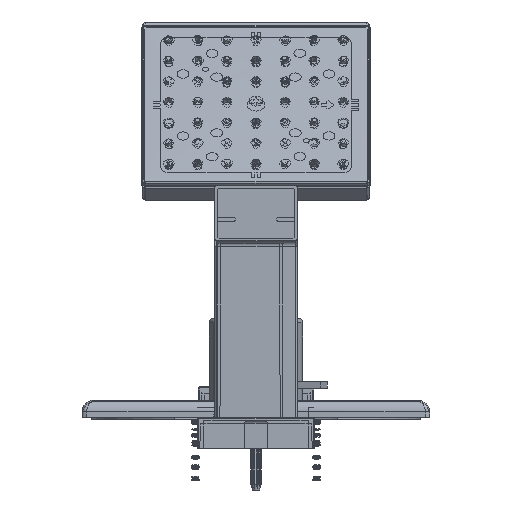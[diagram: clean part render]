
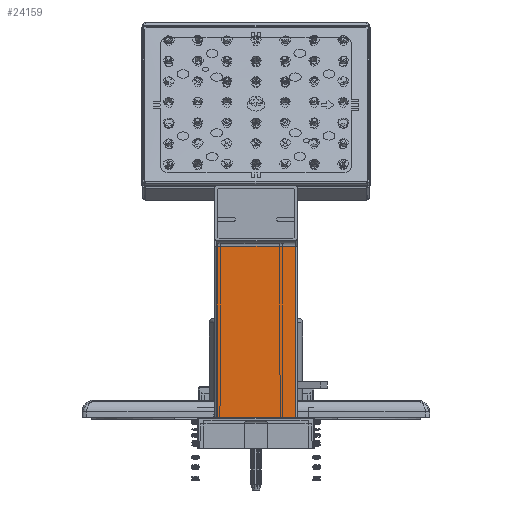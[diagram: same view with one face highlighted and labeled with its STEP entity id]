
A CAD part, front view. The second image highlights one B-rep face of the part: STEP entity #24159.
In plain terms, the highlighted planar face has unit normal (0, -1, 0).
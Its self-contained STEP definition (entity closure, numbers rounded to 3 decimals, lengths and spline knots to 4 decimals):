
#2903 = CARTESIAN_POINT ( 'NONE',  ( 0.8465, -18.3572, 3.8189 ) ) ;
#4206 = DIRECTION ( 'NONE',  ( 0., 0., -1. ) ) ;
#7124 = CARTESIAN_POINT ( 'NONE',  ( -0.8858, -18.3572, 3.7008 ) ) ;
#9811 = EDGE_CURVE ( 'NONE', #60377, #32782, #28718, .T. ) ;
#10526 = ORIENTED_EDGE ( 'NONE', *, *, #9811, .T. ) ;
#11024 = CARTESIAN_POINT ( 'NONE',  ( 0.8465, -18.3572, 0. ) ) ;
#16002 = VECTOR ( 'NONE', #57436, 39.3701 ) ;
#16977 = ORIENTED_EDGE ( 'NONE', *, *, #62516, .T. ) ;
#17031 = VECTOR ( 'NONE', #43057, 39.3701 ) ;
#19009 = PLANE ( 'NONE',  #20920 ) ;
#19694 = EDGE_LOOP ( 'NONE', ( #16977, #10526, #34309, #52802 ) ) ;
#20920 = AXIS2_PLACEMENT_3D ( 'NONE', #59135, #54210, #4206 ) ;
#21019 = EDGE_CURVE ( 'NONE', #57858, #32526, #26951, .T. ) ;
#23959 = FACE_OUTER_BOUND ( 'NONE', #19694, .T. ) ;
#24159 = ADVANCED_FACE ( 'NONE', ( #23959 ), #19009, .T. ) ;
#24317 = CARTESIAN_POINT ( 'NONE',  ( -0.8465, -18.3572, 0. ) ) ;
#26951 = LINE ( 'NONE', #2903, #17031 ) ;
#28265 = CARTESIAN_POINT ( 'NONE',  ( -0.8858, -18.3572, 0. ) ) ;
#28718 = LINE ( 'NONE', #34958, #39107 ) ;
#32232 = DIRECTION ( 'NONE',  ( -1., 0., 0. ) ) ;
#32526 = VERTEX_POINT ( 'NONE', #55701 ) ;
#32557 = LINE ( 'NONE', #28265, #55252 ) ;
#32782 = VERTEX_POINT ( 'NONE', #24317 ) ;
#34309 = ORIENTED_EDGE ( 'NONE', *, *, #48011, .F. ) ;
#34958 = CARTESIAN_POINT ( 'NONE',  ( -0.8465, -18.3572, 3.8189 ) ) ;
#37383 = LINE ( 'NONE', #7124, #16002 ) ;
#38909 = DIRECTION ( 'NONE',  ( 0., 0., -1. ) ) ;
#39107 = VECTOR ( 'NONE', #38909, 39.3701 ) ;
#43057 = DIRECTION ( 'NONE',  ( 0., 0., 1. ) ) ;
#45955 = CARTESIAN_POINT ( 'NONE',  ( -0.8465, -18.3572, 3.7008 ) ) ;
#48011 = EDGE_CURVE ( 'NONE', #57858, #32782, #32557, .T. ) ;
#52802 = ORIENTED_EDGE ( 'NONE', *, *, #21019, .T. ) ;
#54210 = DIRECTION ( 'NONE',  ( 0., -1., 0. ) ) ;
#55252 = VECTOR ( 'NONE', #32232, 39.3701 ) ;
#55701 = CARTESIAN_POINT ( 'NONE',  ( 0.8465, -18.3572, 3.7008 ) ) ;
#57436 = DIRECTION ( 'NONE',  ( -1., 0., 0. ) ) ;
#57858 = VERTEX_POINT ( 'NONE', #11024 ) ;
#59135 = CARTESIAN_POINT ( 'NONE',  ( -0.8858, -18.3572, 3.8189 ) ) ;
#60377 = VERTEX_POINT ( 'NONE', #45955 ) ;
#62516 = EDGE_CURVE ( 'NONE', #32526, #60377, #37383, .T. ) ;
